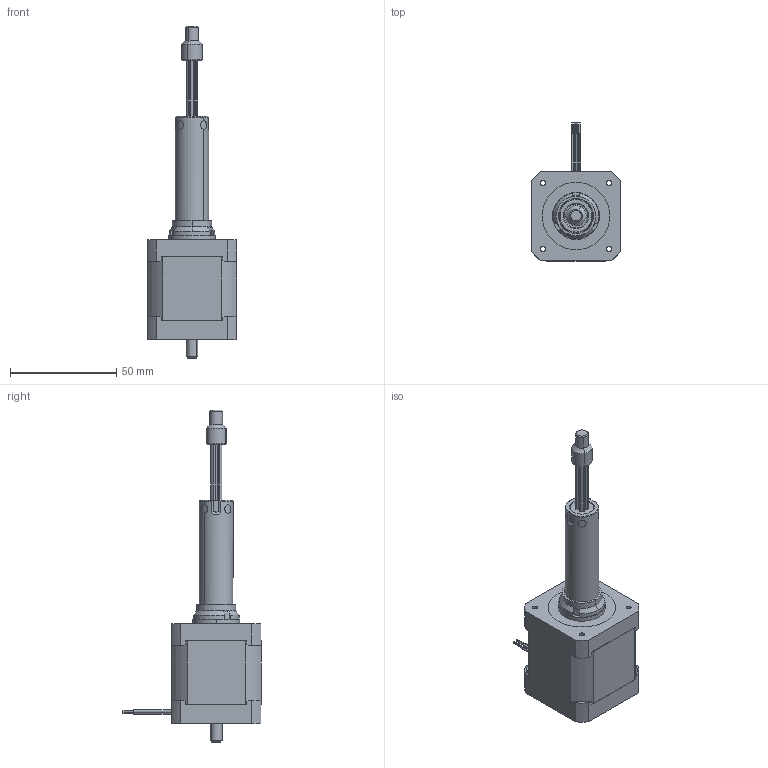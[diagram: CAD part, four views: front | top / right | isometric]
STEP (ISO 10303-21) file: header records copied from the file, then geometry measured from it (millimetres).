
FILE_DESCRIPTION (( 'STEP AP203' ), '1' );
FILE_NAME ('42邧詁綠嘐隅粣.STEP', '2014-09-12T05:33:50', ( 'user' ), ( 'pxctfys' ), 'SwSTEP 2.0', 'SolidWorks 2012', '' );
FILE_SCHEMA (( 'CONFIG_CONTROL_DESIGN' ));
Length unit declared in the file: millimetre
Products named in the file (1): 42邧詁綠嘐隅粣
Bounding box: 42.16 x 64.88 x 156.03 mm (x, y, z)
Surface area: 21702 mm2 (no closed solid volume)
Topology: 0 solids, 22 shells, 231 faces, 1436 edges, 1233 vertices
Faces by surface type: cylinder 105, plane 87, cone 35, torus 2, bspline 2
Entity records: 15222 total; most frequent: CARTESIAN_POINT 3861, DIRECTION 2606, ORIENTED_EDGE 1904, EDGE_CURVE 1436, VERTEX_POINT 1233, AXIS2_PLACEMENT_3D 1008, CIRCLE 778, LINE 590
